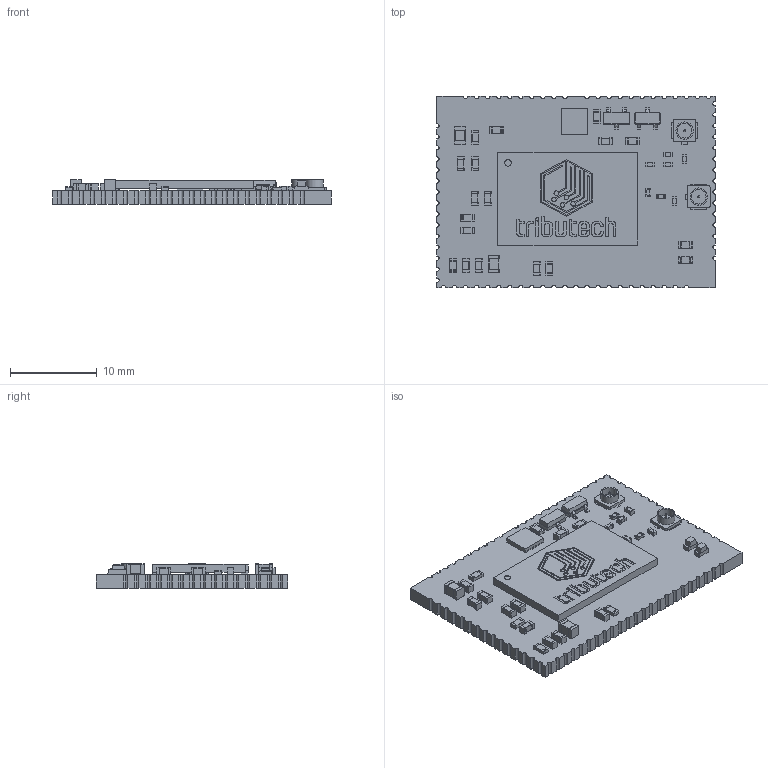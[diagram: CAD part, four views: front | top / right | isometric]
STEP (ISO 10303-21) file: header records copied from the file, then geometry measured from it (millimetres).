
FILE_DESCRIPTION(('FreeCAD Model'),'2;1');
FILE_NAME('Open CASCADE Shape Model','2022-08-05T11:21:06',(''),(''), 'Open CASCADE STEP processor 7.6','FreeCAD','Unknown');
FILE_SCHEMA(('AUTOMOTIVE_DESIGN { 1 0 10303 214 1 1 1 1 }'));
Length unit declared in the file: millimetre
Products named in the file (52): SSM_OEM_Module; Board_Geoms_3cd5; Local_CS_3cd5; Pcb_3cd5; PCB_Sketch_3cd5; Step_Models_3cd5; Top_3cd5; Component 1; Component 2; Component 3; Component 4; Component 5; Component 6; Component 7; Component 8; Component 9; Component 10; Component 11; Component 12; Component 13; Component 14; Component 15; Component 16; Component 17; Component 18; Component 19; Component 20; Component 21; Component 22; Component 23; Component 24; Component 25; Component 26; SLS32AIA020X2USON10XTMA4; SLS32AIA020X2USON10XTMA005; SLS32AIA020X2USON10XTMA006; SLS32AIA020X2USON10XTMA007; SLS32AIA020X2USON10XTMA008; SLS32AIA020X2USON10XTMA009; SLS32AIA020X2USON10XTMA010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
Assembly tree (51 placements, depth 5):
  SSM_OEM_Module
    Board_Geoms_3cd5
      Local_CS_3cd5
      Pcb_3cd5
      PCB_Sketch_3cd5
    Step_Models_3cd5
      Top_3cd5
        Component 1
        Component 2
        Component 3
        Component 4
        Component 5
        Component 6
        Component 7
        Component 8
        Component 9
        Component 10
        Component 11
        Component 12
        Component 13
        Component 14
        Component 15
        Component 16
        Component 17
        Component 18
        Component 19
        Component 20
        Component 21
        Component 22
        Component 23
        Component 24
        Component 25
        Component 26
          SLS32AIA020X2USON10XTMA4
          SLS32AIA020X2USON10XTMA005
          SLS32AIA020X2USON10XTMA006
          SLS32AIA020X2USON10XTMA007
          SLS32AIA020X2USON10XTMA008
          SLS32AIA020X2USON10XTMA009
          SLS32AIA020X2USON10XTMA010
          SLS32AIA020X2USON10XTMA011
          SLS32AIA020X2USON10XTMA012
          SLS32AIA020X2USON10XTMA013
          SLS32AIA020X2USON10XTMA014
          SLS32AIA020X2USON10XTMA015
        Component 27
        Component 28
        Component 29
        Component 30
        Component 31
        Component 32
        Component 33
Bounding box: 32 x 22 x 2.86 mm (x, y, z)
Volume: 1317 mm3; surface area: 2298.3 mm2
Topology: 45 solids, 45 shells, 1466 faces, 3849 edges, 2536 vertices
Faces by surface type: plane 974, cylinder 425, bspline 65, sphere 2
Full cylindrical faces by diameter (mm): 0.2 x2, 0.372 x1, 0.74 x1, 1.7 x2, 2 x2
Entity records: 53225 total; most frequent: CARTESIAN_POINT 8836, ORIENTED_EDGE 7686, DIRECTION 7505, EDGE_CURVE 3843, LINE 2879, VECTOR 2879, VERTEX_POINT 2528, AXIS2_PLACEMENT_3D 2313
